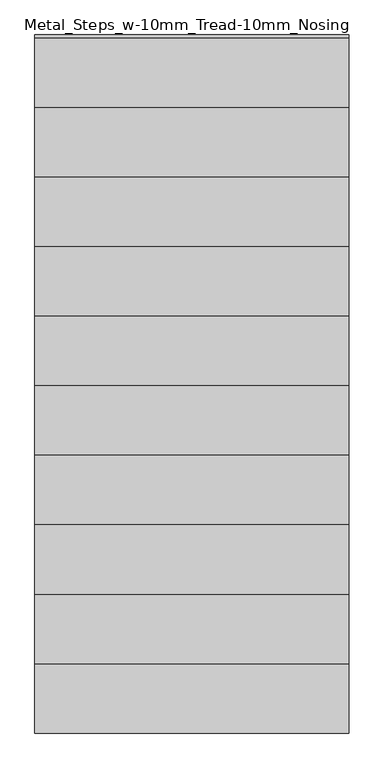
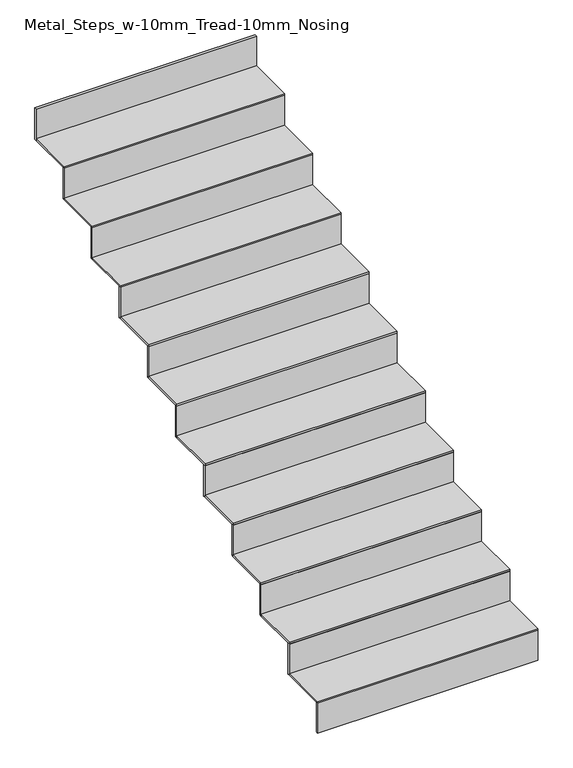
"""IFC4 building model written with IfcOpenShell, lengths in millimetres: stair flight geometry, Metal_Steps_w-10mm_Tread-10mm_Nosing."""

from ifc_helpers import new_model, si_unit, frame, origin, place, context, project, spatial, polyline, outline, extrude, source, transform, mapped, element, save


def metal_steps_w_10mm_tread_10mm_nosing_4cf3b717(model_context):
    return source(origin(), model_context, "Body", "SweptSolid", [
        extrude(outline(polyline([(7399.4763518, 892.5459718), (7399.4763518, 882.5459718), (6269.4763518, 882.5459718), (6269.4763518, 892.5459718), (7399.4763518, 892.5459718)])), frame((0.0, 0.0, 18760.0), z_axis=(0.0, 0.0, 1.0), x_axis=(1.0, 0.0, 0.0)), (0.0, 0.0, 1.0), 160.4545455),
        extrude(outline(polyline([(6269.4763518, 1132.5459718), (7399.4763518, 1132.5459718), (7399.4763518, 882.5459718), (6269.4763518, 882.5459718), (6269.4763518, 1132.5459718)])), frame((0.0, 0.0, 18920.4545455), z_axis=(0.0, 0.0, 1.0), x_axis=(1.0, 0.0, 0.0)), (0.0, 0.0, 1.0), 10.0),
        extrude(outline(polyline([(7399.4763518, 1142.5459718), (7399.4763518, 1132.5459718), (6269.4763518, 1132.5459718), (6269.4763518, 1142.5459718), (7399.4763518, 1142.5459718)])), frame((0.0, 0.0, 18920.4545455), z_axis=(0.0, 0.0, 1.0), x_axis=(1.0, 0.0, 0.0)), (0.0, 0.0, 1.0), 170.4545455),
        extrude(outline(polyline([(6269.4763518, 1382.5459718), (7399.4763518, 1382.5459718), (7399.4763518, 1132.5459718), (6269.4763518, 1132.5459718), (6269.4763518, 1382.5459718)])), frame((0.0, 0.0, 19090.9090909), z_axis=(0.0, 0.0, 1.0), x_axis=(1.0, 0.0, 0.0)), (0.0, 0.0, 1.0), 10.0),
        extrude(outline(polyline([(7399.4763518, 1392.5459718), (7399.4763518, 1382.5459718), (6269.4763518, 1382.5459718), (6269.4763518, 1392.5459718), (7399.4763518, 1392.5459718)])), frame((0.0, 0.0, 19090.9090909), z_axis=(0.0, 0.0, 1.0), x_axis=(1.0, 0.0, 0.0)), (0.0, 0.0, 1.0), 170.4545455),
        extrude(outline(polyline([(6269.4763518, 1632.5459718), (7399.4763518, 1632.5459718), (7399.4763518, 1382.5459718), (6269.4763518, 1382.5459718), (6269.4763518, 1632.5459718)])), frame((0.0, 0.0, 19261.3636364), z_axis=(0.0, 0.0, 1.0), x_axis=(1.0, 0.0, 0.0)), (0.0, 0.0, 1.0), 10.0),
        extrude(outline(polyline([(7399.4763518, 1642.5459718), (7399.4763518, 1632.5459718), (6269.4763518, 1632.5459718), (6269.4763518, 1642.5459718), (7399.4763518, 1642.5459718)])), frame((0.0, 0.0, 19261.3636364), z_axis=(0.0, 0.0, 1.0), x_axis=(1.0, 0.0, 0.0)), (0.0, 0.0, 1.0), 170.4545455),
        extrude(outline(polyline([(6269.4763518, 1882.5459718), (7399.4763518, 1882.5459718), (7399.4763518, 1632.5459718), (6269.4763518, 1632.5459718), (6269.4763518, 1882.5459718)])), frame((0.0, 0.0, 19431.8181818), z_axis=(0.0, 0.0, 1.0), x_axis=(1.0, 0.0, 0.0)), (0.0, 0.0, 1.0), 10.0),
        extrude(outline(polyline([(7399.4763518, 1892.5459718), (7399.4763518, 1882.5459718), (6269.4763518, 1882.5459718), (6269.4763518, 1892.5459718), (7399.4763518, 1892.5459718)])), frame((0.0, 0.0, 19431.8181818), z_axis=(0.0, 0.0, 1.0), x_axis=(1.0, 0.0, 0.0)), (0.0, 0.0, 1.0), 170.4545455),
        extrude(outline(polyline([(6269.4763518, 2132.5459718), (7399.4763518, 2132.5459718), (7399.4763518, 1882.5459718), (6269.4763518, 1882.5459718), (6269.4763518, 2132.5459718)])), frame((0.0, 0.0, 19602.2727273), z_axis=(0.0, 0.0, 1.0), x_axis=(1.0, 0.0, 0.0)), (0.0, 0.0, 1.0), 10.0),
        extrude(outline(polyline([(7399.4763518, 2142.5459718), (7399.4763518, 2132.5459718), (6269.4763518, 2132.5459718), (6269.4763518, 2142.5459718), (7399.4763518, 2142.5459718)])), frame((0.0, 0.0, 19602.2727273), z_axis=(0.0, 0.0, 1.0), x_axis=(1.0, 0.0, 0.0)), (0.0, 0.0, 1.0), 170.4545455),
        extrude(outline(polyline([(6269.4763518, 2382.5459718), (7399.4763518, 2382.5459718), (7399.4763518, 2132.5459718), (6269.4763518, 2132.5459718), (6269.4763518, 2382.5459718)])), frame((0.0, 0.0, 19772.7272727), z_axis=(0.0, 0.0, 1.0), x_axis=(1.0, 0.0, 0.0)), (0.0, 0.0, 1.0), 10.0),
        extrude(outline(polyline([(7399.4763518, 2392.5459718), (7399.4763518, 2382.5459718), (6269.4763518, 2382.5459718), (6269.4763518, 2392.5459718), (7399.4763518, 2392.5459718)])), frame((0.0, 0.0, 19772.7272727), z_axis=(0.0, 0.0, 1.0), x_axis=(1.0, 0.0, 0.0)), (0.0, 0.0, 1.0), 170.4545455),
        extrude(outline(polyline([(6269.4763518, 2632.5459718), (7399.4763518, 2632.5459718), (7399.4763518, 2382.5459718), (6269.4763518, 2382.5459718), (6269.4763518, 2632.5459718)])), frame((0.0, 0.0, 19943.1818182), z_axis=(0.0, 0.0, 1.0), x_axis=(1.0, 0.0, 0.0)), (0.0, 0.0, 1.0), 10.0),
        extrude(outline(polyline([(7399.4763518, 2642.5459718), (7399.4763518, 2632.5459718), (6269.4763518, 2632.5459718), (6269.4763518, 2642.5459718), (7399.4763518, 2642.5459718)])), frame((0.0, 0.0, 19943.1818182), z_axis=(0.0, 0.0, 1.0), x_axis=(1.0, 0.0, 0.0)), (0.0, 0.0, 1.0), 170.4545455),
        extrude(outline(polyline([(6269.4763518, 2882.5459718), (7399.4763518, 2882.5459718), (7399.4763518, 2632.5459718), (6269.4763518, 2632.5459718), (6269.4763518, 2882.5459718)])), frame((0.0, 0.0, 20113.6363636), z_axis=(0.0, 0.0, 1.0), x_axis=(1.0, 0.0, 0.0)), (0.0, 0.0, 1.0), 10.0),
        extrude(outline(polyline([(7399.4763518, 2892.5459718), (7399.4763518, 2882.5459718), (6269.4763518, 2882.5459718), (6269.4763518, 2892.5459718), (7399.4763518, 2892.5459718)])), frame((0.0, 0.0, 20113.6363636), z_axis=(0.0, 0.0, 1.0), x_axis=(1.0, 0.0, 0.0)), (0.0, 0.0, 1.0), 170.4545455),
        extrude(outline(polyline([(6269.4763518, 3132.5459718), (7399.4763518, 3132.5459718), (7399.4763518, 2882.5459718), (6269.4763518, 2882.5459718), (6269.4763518, 3132.5459718)])), frame((0.0, 0.0, 20284.0909091), z_axis=(0.0, 0.0, 1.0), x_axis=(1.0, 0.0, 0.0)), (0.0, 0.0, 1.0), 10.0),
        extrude(outline(polyline([(7399.4763518, 3142.5459718), (7399.4763518, 3132.5459718), (6269.4763518, 3132.5459718), (6269.4763518, 3142.5459718), (7399.4763518, 3142.5459718)])), frame((0.0, 0.0, 20284.0909091), z_axis=(0.0, 0.0, 1.0), x_axis=(1.0, 0.0, 0.0)), (0.0, 0.0, 1.0), 170.4545455),
        extrude(outline(polyline([(7399.4763518, 3392.5459718), (7399.4763518, 3382.5459718), (6269.4763518, 3382.5459718), (6269.4763518, 3392.5459718), (7399.4763518, 3392.5459718)])), frame((0.0, 0.0, 20454.5454545), z_axis=(0.0, 0.0, 1.0), x_axis=(1.0, 0.0, 0.0)), (0.0, 0.0, 1.0), 170.4545455),
        extrude(outline(polyline([(6269.4763518, 3382.5459718), (7399.4763518, 3382.5459718), (7399.4763518, 3132.5459718), (6269.4763518, 3132.5459718), (6269.4763518, 3382.5459718)])), frame((0.0, 0.0, 20454.5454545), z_axis=(0.0, 0.0, 1.0), x_axis=(1.0, 0.0, 0.0)), (0.0, 0.0, 1.0), 10.0),
    ])


if __name__ == "__main__":
    model = new_model("IFC4")
    model_context = context("Model", 3, world=origin())
    ifc_project = project(units=[si_unit("LENGTHUNIT", "METRE", prefix="MILLI")], contexts=[model_context])
    site = spatial("IfcSite", under=ifc_project)
    building = spatial("IfcBuilding", under=site)
    placement = place(None, origin())
    metal_steps_w_10mm_tread_10mm_nosing_shape = metal_steps_w_10mm_tread_10mm_nosing_4cf3b717(model_context)
    element("IfcStairFlight", 1, ObjectType="Metal_Steps_w-10mm_Tread-10mm_Nosing", at=placement, inside=building, context=model_context, shape_type="MappedRepresentation", body=[
        mapped(metal_steps_w_10mm_tread_10mm_nosing_shape, transform((0.0, 0.0, 0.0), x_axis=(1.0, 0.0, 0.0), y_axis=(0.0, 1.0, 0.0), z_axis=(0.0, 0.0, 1.0))),
    ])
    save(model, "model.ifc")
